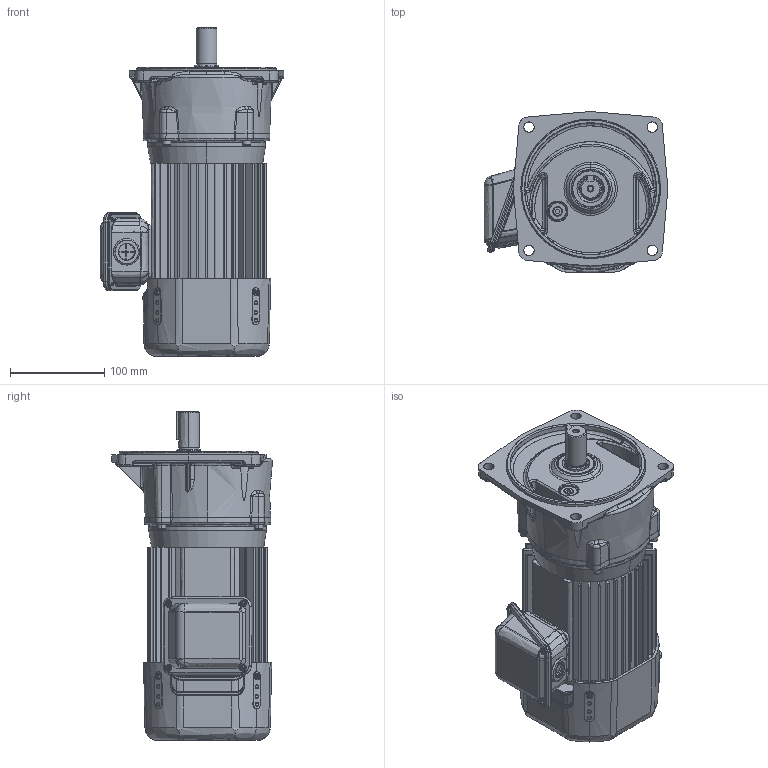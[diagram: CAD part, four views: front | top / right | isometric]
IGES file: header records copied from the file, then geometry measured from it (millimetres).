
Start section: SolidWorks IGES file using analytic representation for surfaces
Global section: file name: \\100.100.100.8\1_共有作業フォルダ\1-5_３Ｄデータ\solidworks\personal-folder\H.Nagayama\SGP1外形\P1(3D)\igs\TMFB2-04-(5~25).IGS; native system: SolidWorks 2018; preprocessor: SolidWorks 2018; author: sigma-giken; date: 200508.142432; units: millimetre
Bounding box: 195 x 170.86 x 349 mm (x, y, z)
Surface area: 429930.8 mm2 (no closed solid volume)
Topology: 0 solids, 0 shells, 1822 faces, 23680 edges, 23656 vertices
Faces by surface type: bspline 967, revolution 855
